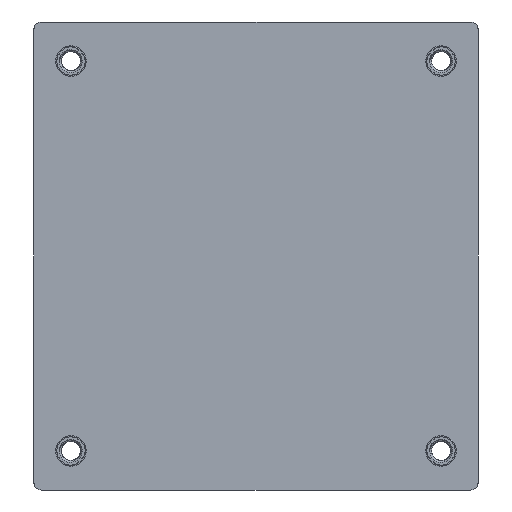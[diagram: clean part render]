
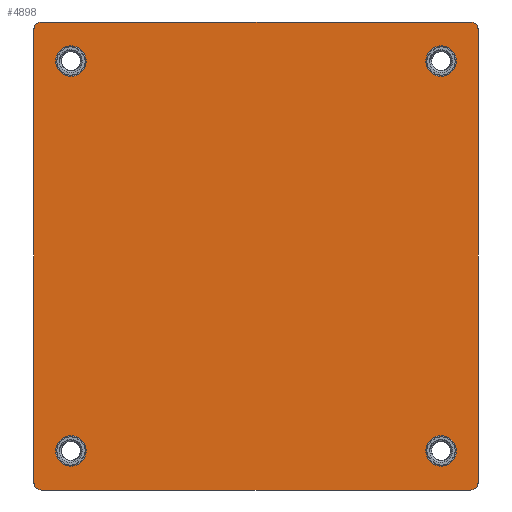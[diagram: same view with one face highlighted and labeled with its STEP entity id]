
A CAD part, front view. The second image highlights one B-rep face of the part: STEP entity #4898.
In plain terms, the highlighted planar face has unit normal (0, -1, 0).
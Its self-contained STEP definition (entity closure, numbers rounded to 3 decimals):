
#58 = CARTESIAN_POINT ( 'NONE',  ( 28.95, -1.6, -30.5 ) ) ;
#168 = CARTESIAN_POINT ( 'NONE',  ( -27.95, -1.6, -30.5 ) ) ;
#368 = DIRECTION ( 'NONE',  ( 0., 1., 0. ) ) ;
#663 = DIRECTION ( 'NONE',  ( 0., -1., 0. ) ) ;
#752 = CARTESIAN_POINT ( 'NONE',  ( 28.95, -1.6, 29.5 ) ) ;
#757 = DIRECTION ( 'NONE',  ( 0., 0., 1. ) ) ;
#2364 = CIRCLE ( 'NONE', #13994, 2. ) ;
#2555 = DIRECTION ( 'NONE',  ( 0., 1., 0. ) ) ;
#2587 = DIRECTION ( 'NONE',  ( 0., 1., 0. ) ) ;
#2629 = VERTEX_POINT ( 'NONE', #19389 ) ;
#2843 = ORIENTED_EDGE ( 'NONE', *, *, #14133, .F. ) ;
#2933 = CARTESIAN_POINT ( 'NONE',  ( -24.13, -1.6, -23.4 ) ) ;
#3128 = DIRECTION ( 'NONE',  ( 0., 1., 0. ) ) ;
#3203 = ORIENTED_EDGE ( 'NONE', *, *, #8200, .T. ) ;
#3347 = EDGE_CURVE ( 'NONE', #16715, #16715, #6841, .T. ) ;
#3863 = VERTEX_POINT ( 'NONE', #168 ) ;
#3971 = FACE_BOUND ( 'NONE', #17058, .T. ) ;
#4077 = EDGE_LOOP ( 'NONE', ( #6142 ) ) ;
#4083 = VECTOR ( 'NONE', #20193, 1000. ) ;
#4115 = DIRECTION ( 'NONE',  ( 0., 0., -1. ) ) ;
#4834 = AXIS2_PLACEMENT_3D ( 'NONE', #5663, #19971, #5525 ) ;
#4898 = ADVANCED_FACE ( 'NONE', ( #15134, #23083, #3971, #23340, #18006 ), #21531, .F. ) ;
#5273 = DIRECTION ( 'NONE',  ( 0., 0., 1. ) ) ;
#5347 = DIRECTION ( 'NONE',  ( 0., -1., 0. ) ) ;
#5525 = DIRECTION ( 'NONE',  ( 0., 0., 1. ) ) ;
#5663 = CARTESIAN_POINT ( 'NONE',  ( -28.95, -1.6, 30.5 ) ) ;
#6045 = DIRECTION ( 'NONE',  ( 0., 0., 1. ) ) ;
#6094 = DIRECTION ( 'NONE',  ( 0., 0., 1. ) ) ;
#6142 = ORIENTED_EDGE ( 'NONE', *, *, #3347, .T. ) ;
#6362 = CARTESIAN_POINT ( 'NONE',  ( 28.95, -1.6, -29.5 ) ) ;
#6413 = VERTEX_POINT ( 'NONE', #11761 ) ;
#6681 = LINE ( 'NONE', #7066, #12648 ) ;
#6803 = ORIENTED_EDGE ( 'NONE', *, *, #24220, .T. ) ;
#6841 = CIRCLE ( 'NONE', #16413, 2. ) ;
#7066 = CARTESIAN_POINT ( 'NONE',  ( -28.95, -1.6, 30.5 ) ) ;
#7221 = EDGE_CURVE ( 'NONE', #12928, #12928, #14284, .T. ) ;
#7248 = CARTESIAN_POINT ( 'NONE',  ( -24.13, -1.6, -25.4 ) ) ;
#7263 = ORIENTED_EDGE ( 'NONE', *, *, #24882, .T. ) ;
#8200 = EDGE_CURVE ( 'NONE', #19452, #23190, #16394, .T. ) ;
#8599 = DIRECTION ( 'NONE',  ( 0., 0., 1. ) ) ;
#8760 = CARTESIAN_POINT ( 'NONE',  ( -27.95, -1.6, -29.5 ) ) ;
#8831 = CARTESIAN_POINT ( 'NONE',  ( 24.13, -1.6, -25.4 ) ) ;
#9053 = ORIENTED_EDGE ( 'NONE', *, *, #7221, .T. ) ;
#9423 = ORIENTED_EDGE ( 'NONE', *, *, #18947, .T. ) ;
#10226 = VECTOR ( 'NONE', #4115, 1000. ) ;
#10683 = CARTESIAN_POINT ( 'NONE',  ( -28.95, -1.6, 29.5 ) ) ;
#10732 = CARTESIAN_POINT ( 'NONE',  ( 24.13, -1.6, -23.4 ) ) ;
#10792 = DIRECTION ( 'NONE',  ( 0., 0., 1. ) ) ;
#11266 = DIRECTION ( 'NONE',  ( 0., 0., 1. ) ) ;
#11761 = CARTESIAN_POINT ( 'NONE',  ( 24.13, -1.6, 27.4 ) ) ;
#11797 = VERTEX_POINT ( 'NONE', #24260 ) ;
#12187 = EDGE_CURVE ( 'NONE', #11797, #3863, #13499, .T. ) ;
#12365 = AXIS2_PLACEMENT_3D ( 'NONE', #18474, #663, #8599 ) ;
#12648 = VECTOR ( 'NONE', #24615, 1000. ) ;
#12804 = EDGE_CURVE ( 'NONE', #11797, #16216, #21924, .T. ) ;
#12928 = VERTEX_POINT ( 'NONE', #10732 ) ;
#13032 = AXIS2_PLACEMENT_3D ( 'NONE', #8831, #3128, #10792 ) ;
#13347 = EDGE_LOOP ( 'NONE', ( #22701, #15132, #24954, #3203, #19801, #9423, #2843, #6803 ) ) ;
#13499 = CIRCLE ( 'NONE', #24700, 1. ) ;
#13822 = VERTEX_POINT ( 'NONE', #15545 ) ;
#13970 = LINE ( 'NONE', #58, #10226 ) ;
#13994 = AXIS2_PLACEMENT_3D ( 'NONE', #22439, #2555, #16842 ) ;
#14133 = EDGE_CURVE ( 'NONE', #2629, #13822, #6681, .T. ) ;
#14284 = CIRCLE ( 'NONE', #13032, 2. ) ;
#14889 = AXIS2_PLACEMENT_3D ( 'NONE', #15707, #25445, #11266 ) ;
#15132 = ORIENTED_EDGE ( 'NONE', *, *, #12187, .T. ) ;
#15134 = FACE_BOUND ( 'NONE', #17495, .T. ) ;
#15545 = CARTESIAN_POINT ( 'NONE',  ( 27.95, -1.6, 30.5 ) ) ;
#15707 = CARTESIAN_POINT ( 'NONE',  ( 27.95, -1.6, 29.5 ) ) ;
#15801 = CARTESIAN_POINT ( 'NONE',  ( -24.13, -1.6, 27.4 ) ) ;
#16065 = VERTEX_POINT ( 'NONE', #15801 ) ;
#16216 = VERTEX_POINT ( 'NONE', #10683 ) ;
#16394 = CIRCLE ( 'NONE', #25114, 1. ) ;
#16413 = AXIS2_PLACEMENT_3D ( 'NONE', #7248, #368, #6094 ) ;
#16468 = CARTESIAN_POINT ( 'NONE',  ( 27.95, -1.6, -30.5 ) ) ;
#16715 = VERTEX_POINT ( 'NONE', #2933 ) ;
#16842 = DIRECTION ( 'NONE',  ( 0., 0., 1. ) ) ;
#17058 = EDGE_LOOP ( 'NONE', ( #7263 ) ) ;
#17495 = EDGE_LOOP ( 'NONE', ( #9053 ) ) ;
#18006 = FACE_OUTER_BOUND ( 'NONE', #13347, .T. ) ;
#18474 = CARTESIAN_POINT ( 'NONE',  ( -27.95, -1.6, 29.5 ) ) ;
#18741 = VERTEX_POINT ( 'NONE', #752 ) ;
#18939 = CIRCLE ( 'NONE', #25602, 2. ) ;
#18947 = EDGE_CURVE ( 'NONE', #18741, #13822, #23203, .T. ) ;
#18989 = CARTESIAN_POINT ( 'NONE',  ( 27.95, -1.6, -29.5 ) ) ;
#19389 = CARTESIAN_POINT ( 'NONE',  ( -27.95, -1.6, 30.5 ) ) ;
#19452 = VERTEX_POINT ( 'NONE', #16468 ) ;
#19801 = ORIENTED_EDGE ( 'NONE', *, *, #21860, .F. ) ;
#19948 = CARTESIAN_POINT ( 'NONE',  ( -28.95, -1.6, -30.5 ) ) ;
#19971 = DIRECTION ( 'NONE',  ( 0., 1., 0. ) ) ;
#20193 = DIRECTION ( 'NONE',  ( -1., 0., 0. ) ) ;
#20952 = ORIENTED_EDGE ( 'NONE', *, *, #22076, .T. ) ;
#21375 = EDGE_LOOP ( 'NONE', ( #20952 ) ) ;
#21531 = PLANE ( 'NONE',  #4834 ) ;
#21828 = VECTOR ( 'NONE', #6045, 1000. ) ;
#21860 = EDGE_CURVE ( 'NONE', #18741, #23190, #13970, .T. ) ;
#21924 = LINE ( 'NONE', #24130, #21828 ) ;
#22076 = EDGE_CURVE ( 'NONE', #16065, #16065, #18939, .T. ) ;
#22361 = CARTESIAN_POINT ( 'NONE',  ( -24.13, -1.6, 25.4 ) ) ;
#22439 = CARTESIAN_POINT ( 'NONE',  ( 24.13, -1.6, 25.4 ) ) ;
#22701 = ORIENTED_EDGE ( 'NONE', *, *, #12804, .F. ) ;
#23072 = DIRECTION ( 'NONE',  ( 0., -1., 0. ) ) ;
#23083 = FACE_BOUND ( 'NONE', #4077, .T. ) ;
#23190 = VERTEX_POINT ( 'NONE', #6362 ) ;
#23203 = CIRCLE ( 'NONE', #14889, 1. ) ;
#23340 = FACE_BOUND ( 'NONE', #21375, .T. ) ;
#23583 = CIRCLE ( 'NONE', #12365, 1. ) ;
#23979 = LINE ( 'NONE', #19948, #4083 ) ;
#24099 = EDGE_CURVE ( 'NONE', #19452, #3863, #23979, .T. ) ;
#24130 = CARTESIAN_POINT ( 'NONE',  ( -28.95, -1.6, -30.5 ) ) ;
#24220 = EDGE_CURVE ( 'NONE', #2629, #16216, #23583, .T. ) ;
#24260 = CARTESIAN_POINT ( 'NONE',  ( -28.95, -1.6, -29.5 ) ) ;
#24615 = DIRECTION ( 'NONE',  ( 1., 0., 0. ) ) ;
#24700 = AXIS2_PLACEMENT_3D ( 'NONE', #8760, #23072, #5273 ) ;
#24882 = EDGE_CURVE ( 'NONE', #6413, #6413, #2364, .T. ) ;
#24954 = ORIENTED_EDGE ( 'NONE', *, *, #24099, .F. ) ;
#25086 = DIRECTION ( 'NONE',  ( 0., 0., 1. ) ) ;
#25114 = AXIS2_PLACEMENT_3D ( 'NONE', #18989, #5347, #25086 ) ;
#25445 = DIRECTION ( 'NONE',  ( 0., -1., 0. ) ) ;
#25602 = AXIS2_PLACEMENT_3D ( 'NONE', #22361, #2587, #757 ) ;
